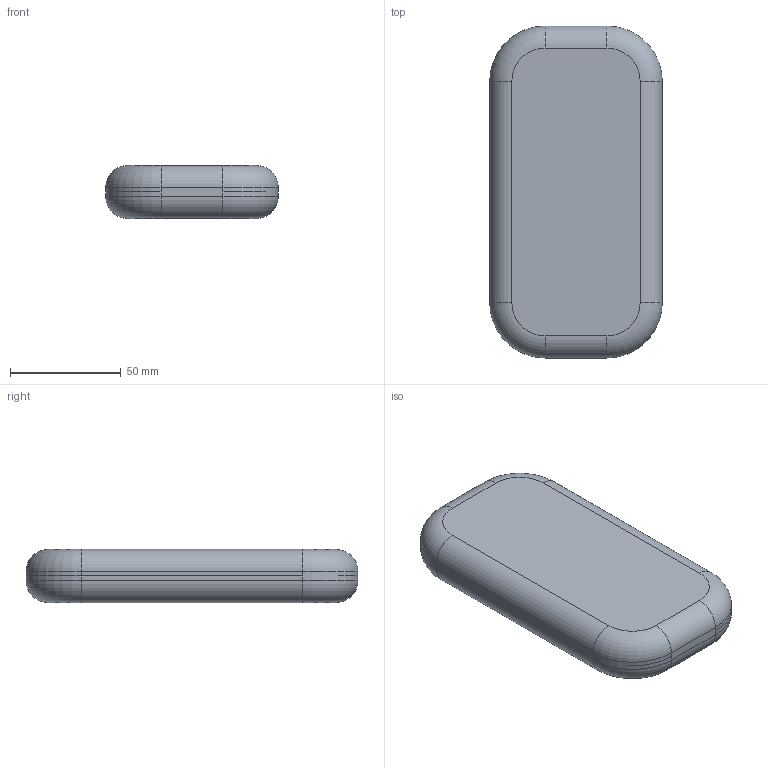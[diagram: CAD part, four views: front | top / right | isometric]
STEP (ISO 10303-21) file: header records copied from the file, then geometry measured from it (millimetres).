
FILE_DESCRIPTION(('Open CASCADE Model'),'2;1');
FILE_NAME('Open CASCADE Shape Model','2026-09-15T14:00:22',('Author'),( 'Open CASCADE'),'Open CASCADE STEP processor 7.7','Open CASCADE 7.7' ,'Unknown');
FILE_SCHEMA(('AUTOMOTIVE_DESIGN { 1 0 10303 214 1 1 1 1 }'));
Length unit declared in the file: millimetre
Products named in the file (1): Open CASCADE STEP translator 7.7 1
Bounding box: 78.01 x 150.01 x 24.01 mm (x, y, z)
Volume: 250938.3 mm3; surface area: 28612.9 mm2
Topology: 1 solids, 1 shells, 35 faces, 80 edges, 48 vertices
Faces by surface type: cylinder 16, plane 11, torus 8
Entity records: 2060 total; most frequent: CARTESIAN_POINT 408, DIRECTION 328, LINE 172, VECTOR 172, ORIENTED_EDGE 160, PCURVE 160, DEFINITIONAL_REPRESENTATION 160, EDGE_CURVE 80
